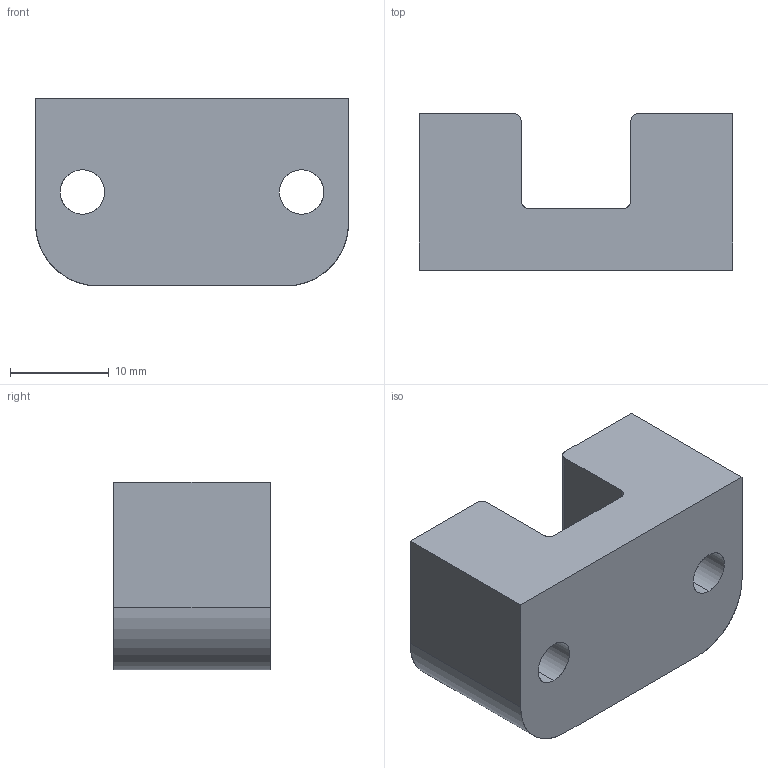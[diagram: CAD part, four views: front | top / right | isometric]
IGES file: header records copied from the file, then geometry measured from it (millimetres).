
Start section: SolidWorks IGES FILE using analytic representation for surfaces
Global section: file name: Y:\CONTENTCENTRAL\Progressive Components Top Lock\cache\PRDEFAU06172003204432.igs; native system: SolidWorks 2003 by SolidWorks Corporation; preprocessor: Version 5.3; author: PartStream; date: 030617.205251; units: inch
Bounding box: 31.75 x 15.88 x 19.05 mm (x, y, z)
Surface area: 3312 mm2 (no closed solid volume)
Topology: 0 solids, 0 shells, 26 faces, 424 edges, 424 vertices
Faces by surface type: revolution 14, bspline 12
